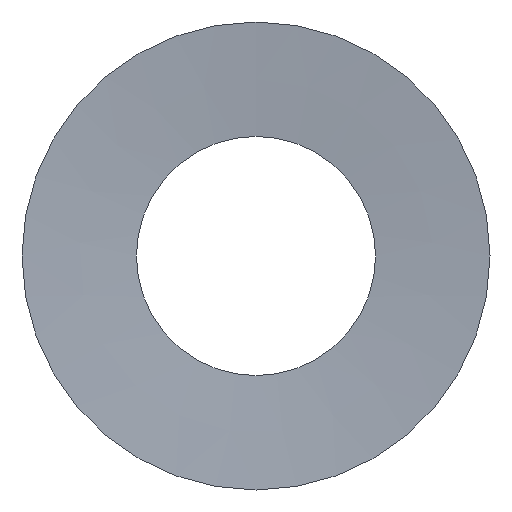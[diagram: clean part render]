
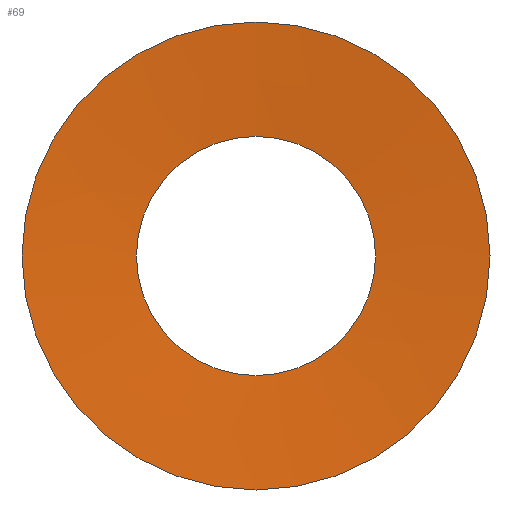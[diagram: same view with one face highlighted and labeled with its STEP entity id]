
A CAD part, front view. The second image highlights one B-rep face of the part: STEP entity #69.
In plain terms, the highlighted conical face has half-angle 85.504 degrees and reference radius 68 mm.
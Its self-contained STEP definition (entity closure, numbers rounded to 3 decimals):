
#19=FACE_OUTER_BOUND('',#23,.T.);
#23=EDGE_LOOP('',(#57,#58,#59,#60));
#27=LINE('',#137,#31);
#31=VECTOR('',#118,68.);
#35=CIRCLE('',#98,46.);
#36=CIRCLE('',#100,90.);
#39=VERTEX_POINT('',#132);
#40=VERTEX_POINT('',#136);
#45=EDGE_CURVE('',#39,#39,#35,.T.);
#46=EDGE_CURVE('',#39,#40,#27,.T.);
#47=EDGE_CURVE('',#40,#40,#36,.T.);
#57=ORIENTED_EDGE('',*,*,#45,.T.);
#58=ORIENTED_EDGE('',*,*,#46,.T.);
#59=ORIENTED_EDGE('',*,*,#47,.F.);
#60=ORIENTED_EDGE('',*,*,#46,.F.);
#66=CONICAL_SURFACE('',#99,68.,1.492);
#69=ADVANCED_FACE('',(#19),#66,.F.);
#98=AXIS2_PLACEMENT_3D('',#134,#114,#115);
#99=AXIS2_PLACEMENT_3D('',#135,#116,#117);
#100=AXIS2_PLACEMENT_3D('',#138,#119,#120);
#114=DIRECTION('center_axis',(0.,1.,0.));
#115=DIRECTION('ref_axis',(1.,0.,0.));
#116=DIRECTION('center_axis',(0.,-1.,0.));
#117=DIRECTION('ref_axis',(0.,0.,-1.));
#118=DIRECTION('',(0.,-0.078,0.997));
#119=DIRECTION('center_axis',(0.,1.,0.));
#120=DIRECTION('ref_axis',(1.,0.,0.));
#132=CARTESIAN_POINT('',(0.,3.46,46.));
#134=CARTESIAN_POINT('Origin',(0.,3.46,0.));
#135=CARTESIAN_POINT('Origin',(0.,1.73,0.));
#136=CARTESIAN_POINT('',(0.,0.,90.));
#137=CARTESIAN_POINT('',(0.,1.73,68.));
#138=CARTESIAN_POINT('Origin',(0.,0.,0.));
